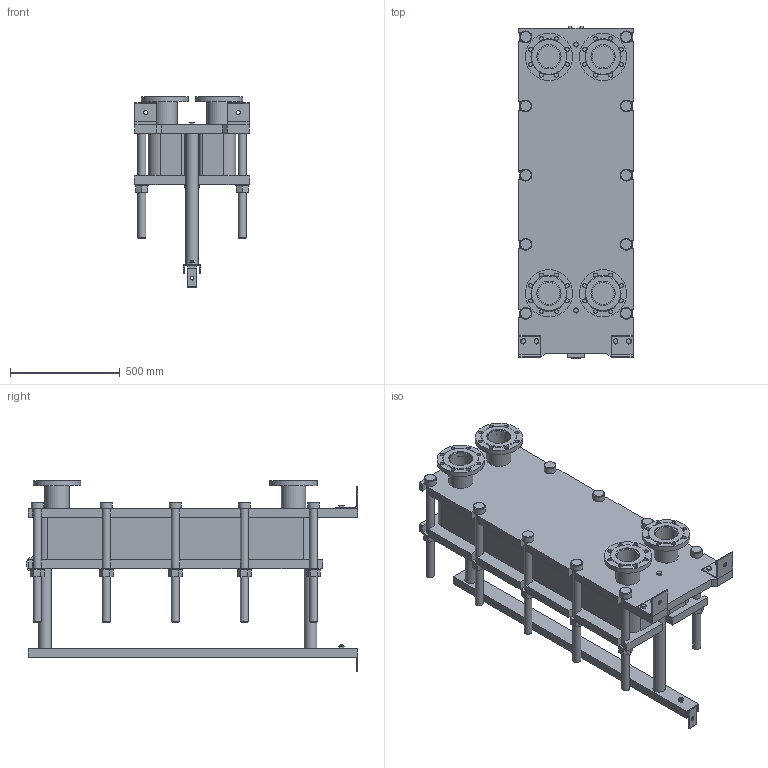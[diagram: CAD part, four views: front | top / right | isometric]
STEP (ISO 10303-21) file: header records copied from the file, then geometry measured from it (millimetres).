
FILE_DESCRIPTION(/* description */ (''),/* implementation_level */ '2;1');
FILE_NAME(/* name */ 'C:\Users\zhuro\Desktop\ENCO\TO\ЭН-04\ЭН-0,5-04-56-1.stp',/* time_stamp */ '2022-06-06T10:49:09+03:00',/* author */ ('zhuro'),/* organization */ (''),/* preprocessor_version */ 'ST-DEVELOPER v18.1',/* originating_system */ 'Autodesk Inventor 2022',/* authorisation */ '');
FILE_SCHEMA (('AUTOMOTIVE_DESIGN { 1 0 10303 214 3 1 1 }'));
Length unit declared in the file: millimetre
Products named in the file (1): ЭН-0,5-04-56-1
Bounding box: 520 x 1510 x 873 mm (x, y, z)
Volume: 165390131.1 mm3; surface area: 7387697.8 mm2
Topology: 45 solids, 45 shells, 668 faces, 1611 edges, 1048 vertices
Faces by surface type: plane 457, cylinder 166, cone 39, torus 6
Full cylindrical faces by diameter (mm): 8 x4, 10 x2, 16 x8, 18 x35, 36 x25, 40 x2, 42 x1, 45 x4, 54 x10, 57 x2, 60 x10, 68 x2, 100 x4, 110 x8, 215 x4
Entity records: 23607 total; most frequent: CARTESIAN_POINT 7348, DIRECTION 3371, ORIENTED_EDGE 3142, EDGE_CURVE 1571, AXIS2_PLACEMENT_3D 1199, VERTEX_POINT 1044, LINE 973, VECTOR 973
